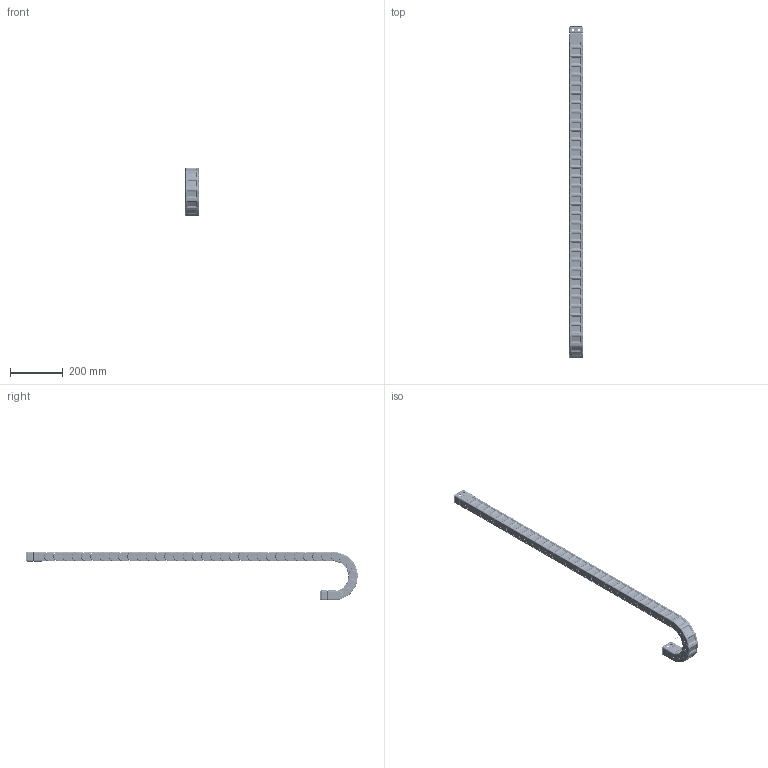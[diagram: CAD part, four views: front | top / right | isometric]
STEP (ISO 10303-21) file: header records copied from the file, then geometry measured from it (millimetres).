
FILE_DESCRIPTION((''),'2;1');
FILE_NAME('C:\Uebbing\PARAMETERKETTEN\PFR\PFR 122\PFR 122 PARAMETRISCH.stp','2012-03-30T08:11:02',('Uebbing'),(''),'Autodesk Inventor 10','Autodesk Inventor 10','');
FILE_SCHEMA(('AUTOMOTIVE_DESIGN { 1 0 10303 214 1 1 1 1 }'));
Length unit declared in the file: millimetre
Products named in the file (4): PFR 122 PARAMETRISCH; PFR122 Glied R75 ; Achse; PFR122 Normalanschluss
Assembly tree (42 placements, depth 2):
  PFR 122 PARAMETRISCH
    PFR122 Glied R75   x39
    Achse
    PFR122 Normalanschluss  x2
Bounding box: 53 x 1256.14 x 184.81 mm (x, y, z)
Volume: 833918.3 mm3; surface area: 622802.9 mm2
Topology: 42 solids, 42 shells, 7138 faces, 18032 edges, 10709 vertices
Faces by surface type: bspline 4020, plane 1497, cylinder 1426, torus 195
Full cylindrical faces by diameter (mm): 1 x1, 3 x39, 9 x8
Entity records: 16960 total; most frequent: CARTESIAN_POINT 8839, ORIENTED_EDGE 1712, DIRECTION 1552, EDGE_CURVE 856, AXIS2_PLACEMENT_3D 576, VERTEX_POINT 502, EDGE_LOOP 400, VECTOR 400
